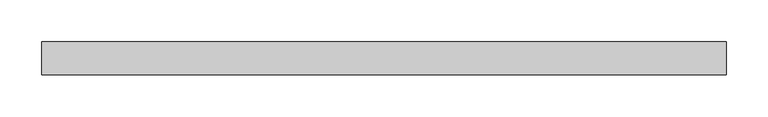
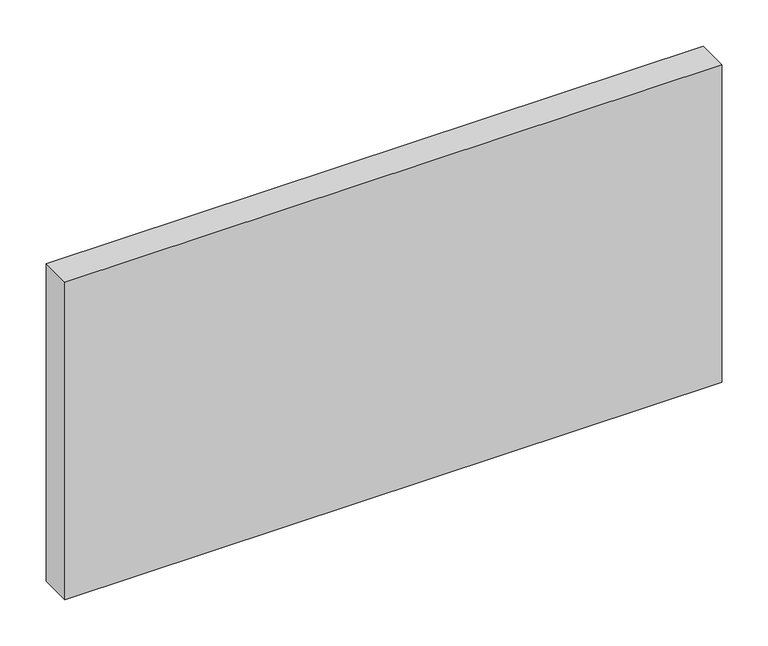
"""IFC4 building model written with IfcOpenShell, lengths in millimetres: plate geometry, Panneau système : Vitre 4cm."""

from ifc_helpers import new_model, si_unit, origin, origin_with_axes, place, context, project, spatial, polyline, outline, extrude, source, transform, mapped, element, save


def plate_adcff442(model_context):
    return source(origin(), model_context, "Body", "SweptSolid", [
        extrude(outline(polyline([(411.0, -20.0), (-411.0, -20.0), (-411.0, 20.0), (411.0, 20.0), (411.0, -20.0)])), origin_with_axes(), (0.0, 0.0, 1.0), 420.0),
    ])


if __name__ == "__main__":
    model = new_model("IFC4")
    model_context = context("Model", 3, world=origin())
    ifc_project = project(units=[si_unit("LENGTHUNIT", "METRE", prefix="MILLI")], contexts=[model_context])
    site = spatial("IfcSite", under=ifc_project)
    building = spatial("IfcBuilding", under=site)
    placement = place(None, origin())
    plate_shape = plate_adcff442(model_context)
    element("IfcPlate", 1, ObjectType="Panneau système : Vitre 4cm", at=placement, inside=building, context=model_context, shape_type="MappedRepresentation", body=[
        mapped(plate_shape, transform((0.0, 0.0, 0.0), x_axis=(1.0, 0.0, 0.0), y_axis=(0.0, 1.0, 0.0), z_axis=(0.0, 0.0, 1.0))),
    ])
    save(model, "model.ifc")
